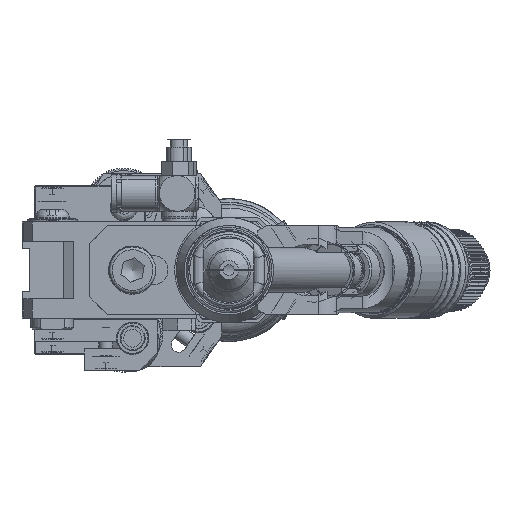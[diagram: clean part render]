
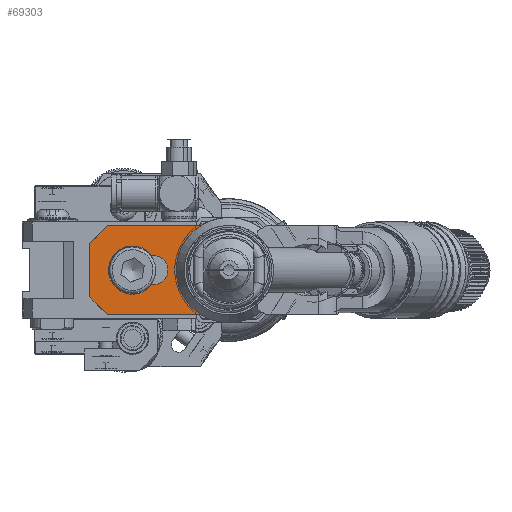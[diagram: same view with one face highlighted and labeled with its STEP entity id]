
A CAD part, left-side view. The second image highlights one B-rep face of the part: STEP entity #69303.
In plain terms, the highlighted planar face has unit normal (-1, 0, 0).
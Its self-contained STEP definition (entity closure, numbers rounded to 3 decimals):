
#2474=PLANE('',#74110);
#3956=FACE_BOUND('',#21708,.T.);
#4935=CIRCLE('',#73363,12.5);
#5317=CIRCLE('',#74095,6.75);
#5320=CIRCLE('',#74101,4.1);
#5321=CIRCLE('',#74104,1.);
#5325=CIRCLE('',#74111,1.);
#8470=LINE('',#106894,#12847);
#8475=LINE('',#106906,#12852);
#8478=LINE('',#106923,#12855);
#8479=LINE('',#106925,#12856);
#8480=LINE('',#106927,#12857);
#8481=LINE('',#106929,#12858);
#8482=LINE('',#106931,#12859);
#8483=LINE('',#106933,#12860);
#8484=LINE('',#106934,#12861);
#12847=VECTOR('',#83654,10.);
#12852=VECTOR('',#83667,10.);
#12855=VECTOR('',#83688,10.);
#12856=VECTOR('',#83689,10.);
#12857=VECTOR('',#83690,10.);
#12858=VECTOR('',#83691,10.);
#12859=VECTOR('',#83692,10.);
#12860=VECTOR('',#83693,10.);
#12861=VECTOR('',#83694,10.);
#17827=FACE_OUTER_BOUND('',#21707,.T.);
#21707=EDGE_LOOP('',(#50120,#50121,#50122,#50123,#50124,#50125,#50126,#50127,
#50128,#50129));
#21708=EDGE_LOOP('',(#50130,#50131,#50132,#50133));
#27976=VERTEX_POINT('',#102770);
#27977=VERTEX_POINT('',#102772);
#28654=VERTEX_POINT('',#106881);
#28655=VERTEX_POINT('',#106883);
#28658=VERTEX_POINT('',#106893);
#28661=VERTEX_POINT('',#106901);
#28662=VERTEX_POINT('',#106908);
#28665=VERTEX_POINT('',#106920);
#28666=VERTEX_POINT('',#106922);
#28667=VERTEX_POINT('',#106924);
#28668=VERTEX_POINT('',#106926);
#28669=VERTEX_POINT('',#106928);
#28670=VERTEX_POINT('',#106930);
#28671=VERTEX_POINT('',#106932);
#35651=EDGE_CURVE('',#27977,#27976,#4935,.T.);
#36632=EDGE_CURVE('',#28655,#28654,#5317,.T.);
#36637=EDGE_CURVE('',#28658,#28655,#8470,.T.);
#36641=EDGE_CURVE('',#28661,#28658,#5320,.T.);
#36644=EDGE_CURVE('',#28654,#28661,#8475,.T.);
#36645=EDGE_CURVE('',#27977,#28662,#5321,.T.);
#36651=EDGE_CURVE('',#28665,#27976,#5325,.T.);
#36652=EDGE_CURVE('',#28665,#28666,#8478,.T.);
#36653=EDGE_CURVE('',#28666,#28667,#8479,.T.);
#36654=EDGE_CURVE('',#28668,#28667,#8480,.T.);
#36655=EDGE_CURVE('',#28668,#28669,#8481,.T.);
#36656=EDGE_CURVE('',#28670,#28669,#8482,.T.);
#36657=EDGE_CURVE('',#28670,#28671,#8483,.T.);
#36658=EDGE_CURVE('',#28671,#28662,#8484,.T.);
#50120=ORIENTED_EDGE('',*,*,#36645,.F.);
#50121=ORIENTED_EDGE('',*,*,#35651,.T.);
#50122=ORIENTED_EDGE('',*,*,#36651,.F.);
#50123=ORIENTED_EDGE('',*,*,#36652,.T.);
#50124=ORIENTED_EDGE('',*,*,#36653,.T.);
#50125=ORIENTED_EDGE('',*,*,#36654,.F.);
#50126=ORIENTED_EDGE('',*,*,#36655,.T.);
#50127=ORIENTED_EDGE('',*,*,#36656,.F.);
#50128=ORIENTED_EDGE('',*,*,#36657,.T.);
#50129=ORIENTED_EDGE('',*,*,#36658,.T.);
#50130=ORIENTED_EDGE('',*,*,#36632,.T.);
#50131=ORIENTED_EDGE('',*,*,#36644,.T.);
#50132=ORIENTED_EDGE('',*,*,#36641,.T.);
#50133=ORIENTED_EDGE('',*,*,#36637,.T.);
#69303=ADVANCED_FACE('',(#17827,#3956),#2474,.T.);
#73363=AXIS2_PLACEMENT_3D('',#102773,#81749,#81750);
#74095=AXIS2_PLACEMENT_3D('',#106884,#83643,#83644);
#74101=AXIS2_PLACEMENT_3D('',#106902,#83661,#83662);
#74104=AXIS2_PLACEMENT_3D('',#106909,#83670,#83671);
#74110=AXIS2_PLACEMENT_3D('',#106919,#83684,#83685);
#74111=AXIS2_PLACEMENT_3D('',#106921,#83686,#83687);
#81749=DIRECTION('center_axis',(1.,0.,0.));
#81750=DIRECTION('ref_axis',(0.,1.,0.));
#83643=DIRECTION('center_axis',(1.,0.,0.));
#83644=DIRECTION('ref_axis',(0.,1.,0.));
#83654=DIRECTION('',(0.,1.,0.));
#83661=DIRECTION('center_axis',(1.,0.,0.));
#83662=DIRECTION('ref_axis',(0.,0.,
1.));
#83667=DIRECTION('',(0.,-1.,0.));
#83670=DIRECTION('center_axis',(1.,0.,0.));
#83671=DIRECTION('ref_axis',(0.,-0.892,0.451));
#83684=DIRECTION('center_axis',(-1.,0.,0.));
#83685=DIRECTION('ref_axis',(0.,0.,
-1.));
#83686=DIRECTION('center_axis',(1.,0.,0.));
#83687=DIRECTION('ref_axis',(0.,-0.892,-0.451));
#83688=DIRECTION('',(0.,0.,1.));
#83689=DIRECTION('',(0.,1.,0.));
#83690=DIRECTION('',(0.,-0.707,0.707));
#83691=DIRECTION('',(0.,0.,-1.));
#83692=DIRECTION('',(0.,0.707,0.707));
#83693=DIRECTION('',(0.,-1.,0.));
#83694=DIRECTION('',(0.,0.,1.));
#102770=CARTESIAN_POINT('',(110.5,7.407,10.886));
#102772=CARTESIAN_POINT('',(110.5,7.407,-9.252));
#102773=CARTESIAN_POINT('Origin',(110.5,0.,
0.817));
#106881=CARTESIAN_POINT('',(110.5,21.638,4.917));
#106883=CARTESIAN_POINT('',(110.5,21.638,-3.283));
#106884=CARTESIAN_POINT('Origin',(110.5,27.,0.817));
#106893=CARTESIAN_POINT('',(110.5,21.2,-3.283));
#106894=CARTESIAN_POINT('',(110.5,17.,-3.283));
#106901=CARTESIAN_POINT('',(110.5,21.2,4.917));
#106902=CARTESIAN_POINT('Origin',(110.5,21.2,0.817));
#106906=CARTESIAN_POINT('',(110.5,14.1,4.917));
#106908=CARTESIAN_POINT('',(110.5,7.,-10.057));
#106909=CARTESIAN_POINT('Origin',(110.5,8.,-10.057));
#106919=CARTESIAN_POINT('Origin',(110.5,7.,0.817));
#106920=CARTESIAN_POINT('',(110.5,7.,11.691));
#106921=CARTESIAN_POINT('Origin',(110.5,8.,11.691));
#106922=CARTESIAN_POINT('',(110.5,7.,13.317));
#106923=CARTESIAN_POINT('',(110.5,7.,0.817));
#106924=CARTESIAN_POINT('',(110.5,34.,13.317));
#106925=CARTESIAN_POINT('',(110.5,39.,13.317));
#106926=CARTESIAN_POINT('',(110.5,39.,8.317));
#106927=CARTESIAN_POINT('',(110.5,31.625,15.692));
#106928=CARTESIAN_POINT('',(110.5,39.,-6.683));
#106929=CARTESIAN_POINT('',(110.5,39.,0.817));
#106930=CARTESIAN_POINT('',(110.5,34.,-11.683));
#106931=CARTESIAN_POINT('',(110.5,31.625,-14.058));
#106932=CARTESIAN_POINT('',(110.5,7.,-11.683));
#106933=CARTESIAN_POINT('',(110.5,39.,-11.683));
#106934=CARTESIAN_POINT('',(110.5,7.,0.817));
